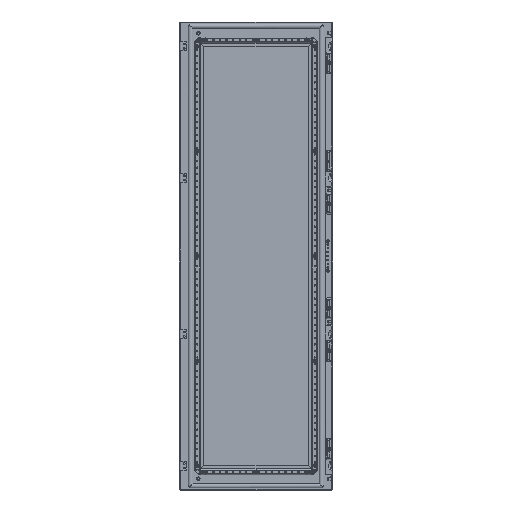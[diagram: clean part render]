
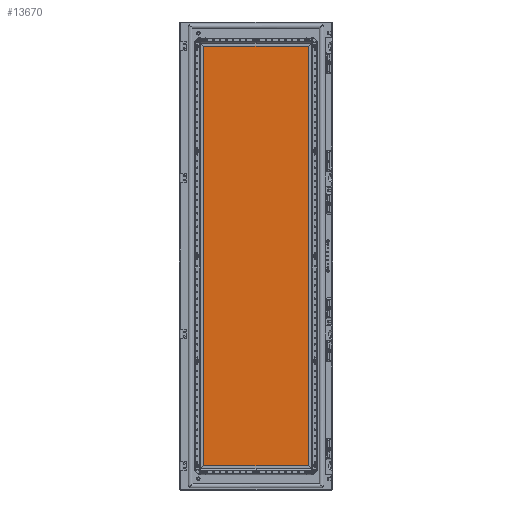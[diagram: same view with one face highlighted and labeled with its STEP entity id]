
A CAD part, top view. The second image highlights one B-rep face of the part: STEP entity #13670.
In plain terms, the highlighted planar face has unit normal (0, 0, 1).
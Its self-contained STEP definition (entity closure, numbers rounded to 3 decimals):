
#13670=ADVANCED_FACE('',(#76328),#76330,.F.);
#76328=FACE_BOUND('',#76329,.T.);
#76329=EDGE_LOOP('',(#145414,#145415,#145416,#145417));
#76330=PLANE('',#76331);
#76331=AXIS2_PLACEMENT_3D('',#76332,#76333,#76334);
#76332=CARTESIAN_POINT('',(0.,0.,6.5));
#76333=DIRECTION('',(0.,0.,-1.));
#76334=DIRECTION('',(-1.,0.,0.));
#145414=ORIENTED_EDGE('',*,*,#175435,.T.);
#145415=ORIENTED_EDGE('',*,*,#175445,.T.);
#145416=ORIENTED_EDGE('',*,*,#175442,.T.);
#145417=ORIENTED_EDGE('',*,*,#175439,.T.);
#175435=EDGE_CURVE('',#194231,#194232,#194233,.T.);
#175439=EDGE_CURVE('',#194239,#194231,#194240,.T.);
#175442=EDGE_CURVE('',#194244,#194239,#194245,.T.);
#175445=EDGE_CURVE('',#194232,#194244,#194249,.T.);
#194231=VERTEX_POINT('',#240509);
#194232=VERTEX_POINT('',#240510);
#194233=LINE('',#240511,#240512);
#194239=VERTEX_POINT('',#240525);
#194240=LINE('',#240526,#240527);
#194244=VERTEX_POINT('',#240536);
#194245=LINE('',#240537,#240538);
#194249=LINE('',#240547,#240548);
#240509=CARTESIAN_POINT('',(-212.5,812.5,6.5));
#240510=CARTESIAN_POINT('',(-212.5,-812.5,6.5));
#240511=CARTESIAN_POINT('',(-212.5,812.5,6.5));
#240512=VECTOR('',#240513,1.);
#240513=DIRECTION('',(0.,-1.,0.));
#240525=CARTESIAN_POINT('',(212.5,812.5,6.5));
#240526=CARTESIAN_POINT('',(212.5,812.5,6.5));
#240527=VECTOR('',#240528,1.);
#240528=DIRECTION('',(-1.,0.,0.));
#240536=CARTESIAN_POINT('',(212.5,-812.5,6.5));
#240537=CARTESIAN_POINT('',(212.5,-812.5,6.5));
#240538=VECTOR('',#240539,1.);
#240539=DIRECTION('',(0.,1.,0.));
#240547=CARTESIAN_POINT('',(-212.5,-812.5,6.5));
#240548=VECTOR('',#240549,1.);
#240549=DIRECTION('',(1.,0.,0.));
